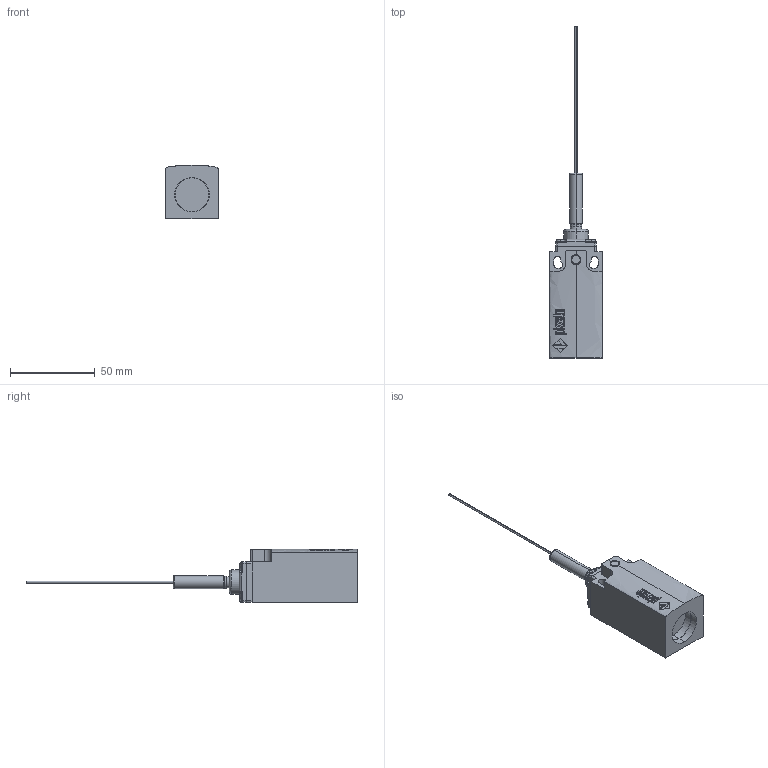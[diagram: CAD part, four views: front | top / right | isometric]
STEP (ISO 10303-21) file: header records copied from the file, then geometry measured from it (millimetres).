
FILE_DESCRIPTION (( 'STEP AP203' ), '1' );
FILE_NAME ('ZF_STEP_FM_x21.STEP', '2024-01-09T16:32:25', ( '' ), ( '' ), 'SwSTEP 2.0', 'SolidWorks 2020', '' );
FILE_SCHEMA (( 'CONFIG_CONTROL_DESIGN' ));
Length unit declared in the file: millimetre
Products named in the file (6): Pizzato_TE21; ZF_STEP_FM_x21; Pizzato_Custodia_FM_3dweb; ZF_STEP_VF_TE21; Pizzato_Supporto_TE20
Assembly tree (5 placements, depth 3):
  ZF_STEP_FM_x21
    Pizzato_Custodia_FM_3dweb
      Pizzato_Custodia_FM_3dweb
    ZF_STEP_VF_TE21
      Pizzato_Supporto_TE20
      Pizzato_TE21
Bounding box: 31.2 x 196 x 31.6 mm (x, y, z)
Volume: 60759.8 mm3; surface area: 15966.9 mm2
Topology: 3 solids, 3 shells, 262 faces, 675 edges, 446 vertices
Faces by surface type: plane 149, cylinder 54, bspline 45, sphere 8, torus 6
Entity records: 9115 total; most frequent: CARTESIAN_POINT 2446, ORIENTED_EDGE 1350, DIRECTION 1095, EDGE_CURVE 675, VERTEX_POINT 446, VECTOR 401, LINE 401, AXIS2_PLACEMENT_3D 347
